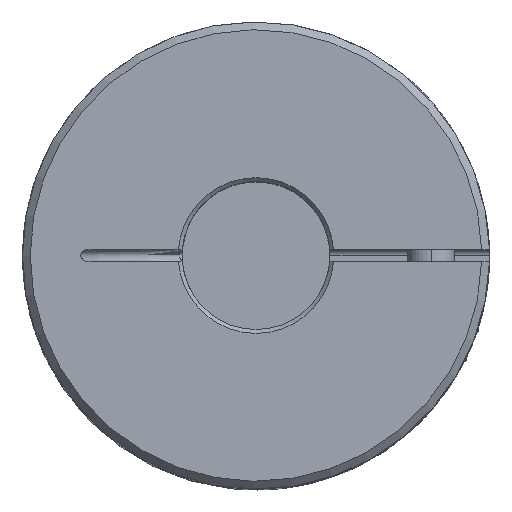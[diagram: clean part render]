
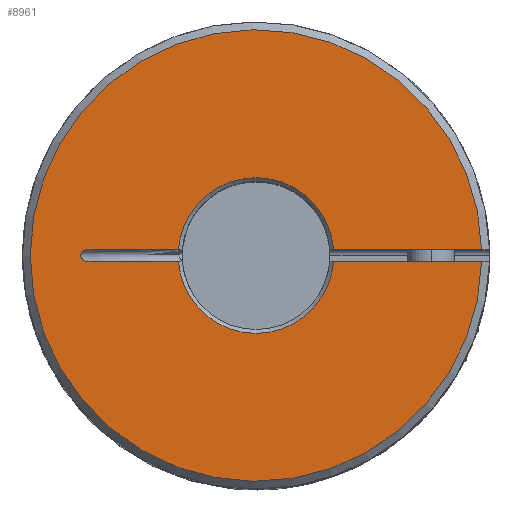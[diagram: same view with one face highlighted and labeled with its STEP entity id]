
A CAD part, top view. The second image highlights one B-rep face of the part: STEP entity #8961.
In plain terms, the highlighted planar face has unit normal (0, 0, 1).
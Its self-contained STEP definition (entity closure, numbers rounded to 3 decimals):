
#58=DIRECTION('',(-1.,0.,0.));
#59=VECTOR('',#58,23.476);
#60=CARTESIAN_POINT('',(-19.944,1.5,80.));
#61=LINE('',#60,#59);
#62=CARTESIAN_POINT('',(-43.419,1.5,80.));
#63=CARTESIAN_POINT('',(-43.554,1.5,80.));
#64=CARTESIAN_POINT('',(-43.813,1.469,80.));
#65=CARTESIAN_POINT('',(-44.181,1.332,80.));
#66=CARTESIAN_POINT('',(-44.497,1.117,80.));
#67=CARTESIAN_POINT('',(-44.746,0.841,80.));
#68=CARTESIAN_POINT('',(-44.917,0.522,80.));
#69=CARTESIAN_POINT('',(-45.004,0.177,80.));
#70=CARTESIAN_POINT('',(-45.004,-0.177,80.));
#71=CARTESIAN_POINT('',(-44.917,-0.522,80.));
#72=CARTESIAN_POINT('',(-44.746,-0.841,80.));
#73=CARTESIAN_POINT('',(-44.497,-1.117,80.));
#74=CARTESIAN_POINT('',(-44.181,-1.332,80.));
#75=CARTESIAN_POINT('',(-43.813,-1.469,80.));
#76=CARTESIAN_POINT('',(-43.554,-1.5,80.));
#77=CARTESIAN_POINT('',(-43.419,-1.5,80.));
#79=DIRECTION('',(-1.,0.,0.));
#80=VECTOR('',#79,23.476);
#81=CARTESIAN_POINT('',(-19.944,-1.5,80.));
#82=LINE('',#81,#80);
#83=DIRECTION('',(-1.,0.,0.));
#84=VECTOR('',#83,38.037);
#85=CARTESIAN_POINT('',(57.981,-1.5,80.));
#86=LINE('',#85,#84);
#87=DIRECTION('',(-1.,0.,0.));
#88=VECTOR('',#87,38.037);
#89=CARTESIAN_POINT('',(57.981,1.5,80.));
#90=LINE('',#89,#88);
#91=CARTESIAN_POINT('',(0.,0.,80.));
#92=DIRECTION('',(0.,0.,-1.));
#93=DIRECTION('',(-0.997,0.075,0.));
#94=AXIS2_PLACEMENT_3D('',#91,#92,#93);
#110=CARTESIAN_POINT('',(19.944,1.5,80.));
#130=CARTESIAN_POINT('',(0.,0.,80.));
#131=DIRECTION('',(0.,0.,1.));
#132=DIRECTION('',(1.,0.026,0.));
#133=AXIS2_PLACEMENT_3D('',#130,#131,#132);
#154=CARTESIAN_POINT('',(19.944,-1.5,80.));
#165=CARTESIAN_POINT('',(0.,0.,80.));
#166=DIRECTION('',(0.,0.,-1.));
#167=DIRECTION('',(0.997,-0.075,0.));
#168=AXIS2_PLACEMENT_3D('',#165,#166,#167);
#180=CARTESIAN_POINT('',(-19.944,-1.5,80.));
#222=CARTESIAN_POINT('',(-19.944,1.5,80.));
#7352=CARTESIAN_POINT('',(57.981,1.5,80.));
#7353=CARTESIAN_POINT('',(57.981,-1.5,80.));
#7354=VERTEX_POINT('',#7352);
#7355=VERTEX_POINT('',#7353);
#7460=VERTEX_POINT('',#62);
#7461=VERTEX_POINT('',#77);
#7489=VERTEX_POINT('',#110);
#7490=VERTEX_POINT('',#222);
#7492=VERTEX_POINT('',#154);
#7495=VERTEX_POINT('',#180);
#8938=CARTESIAN_POINT('',(0.,0.,80.));
#8939=DIRECTION('',(0.,0.,-1.));
#8940=DIRECTION('',(-1.,0.,0.));
#8941=AXIS2_PLACEMENT_3D('',#8938,#8939,#8940);
#8942=PLANE('',#8941);
#8944=ORIENTED_EDGE('',*,*,#8943,.F.);
#8946=ORIENTED_EDGE('',*,*,#8945,.T.);
#8948=ORIENTED_EDGE('',*,*,#8947,.T.);
#8950=ORIENTED_EDGE('',*,*,#8949,.F.);
#8952=ORIENTED_EDGE('',*,*,#8951,.F.);
#8954=ORIENTED_EDGE('',*,*,#8953,.F.);
#8956=ORIENTED_EDGE('',*,*,#8955,.F.);
#8958=ORIENTED_EDGE('',*,*,#8957,.T.);
#8959=EDGE_LOOP('',(#8944,#8946,#8948,#8950,#8952,#8954,#8956,#8958));
#8960=FACE_OUTER_BOUND('',#8959,.F.);
#8961=ADVANCED_FACE('',(#8960),#8942,.F.);
#78=B_SPLINE_CURVE_WITH_KNOTS('',3,(#62,#63,#64,#65,#66,#67,#68,#69,#70,#71,#72,
#73,#74,#75,#76,#77),.UNSPECIFIED.,.F.,.F.,(4,1,1,1,1,1,1,1,1,1,1,1,1,4),(0.,
0.077,0.154,0.231,0.308,
0.385,0.462,0.538,0.615,
0.692,0.769,0.846,0.923,1.),
.UNSPECIFIED.);
#95=CIRCLE('',#94,20.);
#134=CIRCLE('',#133,58.);
#169=CIRCLE('',#168,20.);
#8943=EDGE_CURVE('',#7490,#7489,#95,.T.);
#8945=EDGE_CURVE('',#7490,#7460,#61,.T.);
#8947=EDGE_CURVE('',#7460,#7461,#78,.T.);
#8949=EDGE_CURVE('',#7495,#7461,#82,.T.);
#8951=EDGE_CURVE('',#7492,#7495,#169,.T.);
#8953=EDGE_CURVE('',#7355,#7492,#86,.T.);
#8955=EDGE_CURVE('',#7354,#7355,#134,.T.);
#8957=EDGE_CURVE('',#7354,#7489,#90,.T.);
